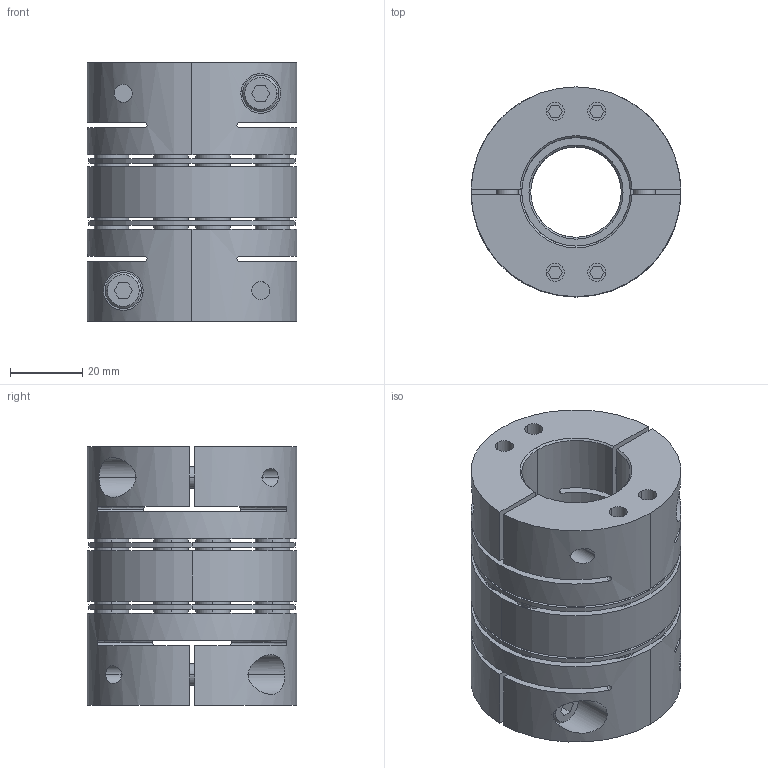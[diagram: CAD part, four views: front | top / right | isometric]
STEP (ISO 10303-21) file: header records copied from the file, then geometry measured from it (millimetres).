
FILE_DESCRIPTION((''),'2;1');
FILE_NAME('TAD-58C-25×30.stp','2022-11-13T22:09:45',(''),(''),'AutoCAD STEP 2000i','AutoCAD 2000i',', , ');
FILE_SCHEMA(('CONFIG_CONTROL_DESIGN'));
Length unit declared in the file: millimetre
Products named in the file (8): TAD-58C-22×22; 忣兜1; TA58C-22-2; CAP-M6×20; TA58C-22; TA58C-12-2; TA58C-12; TAS-58C-ITA
Assembly tree (10 placements, depth 3):
  TAD-58C-22×22
    忣兜1
    TA58C-22-2
      CAP-M6×20
    TA58C-22
      CAP-M6×20
    TA58C-12-2
      CAP-M6×20
    TA58C-12
      CAP-M6×20
    TAS-58C-ITA
Bounding box: 58 x 58 x 71.5 mm (x, y, z)
Volume: 121100.5 mm3; surface area: 53883.7 mm2
Topology: 1 solids, 5 shells, 568 faces, 1370 edges, 954 vertices
Faces by surface type: plane 252, cylinder 228, cone 72, bspline 16
Entity records: 18721 total; most frequent: CARTESIAN_POINT 4821, DIRECTION 3022, ORIENTED_EDGE 2640, EDGE_CURVE 1320, AXIS2_PLACEMENT_3D 1145, VERTEX_POINT 860, VECTOR 732, LINE 732
